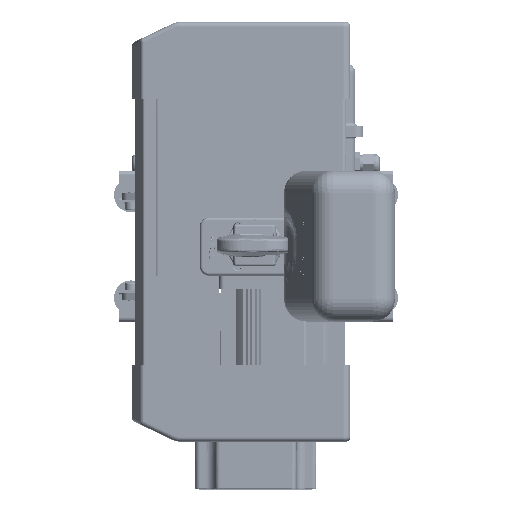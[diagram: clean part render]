
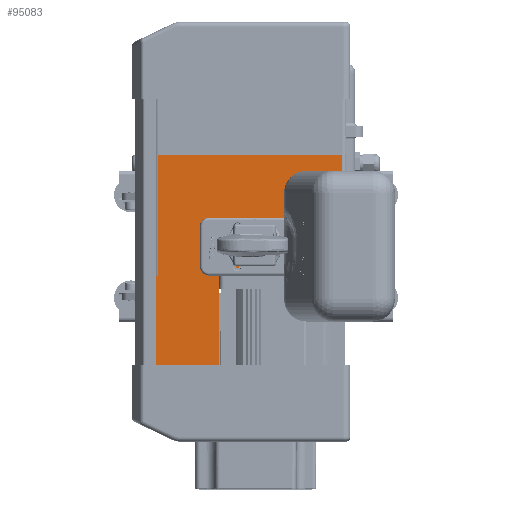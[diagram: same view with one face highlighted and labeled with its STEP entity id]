
A CAD part, front view. The second image highlights one B-rep face of the part: STEP entity #95083.
In plain terms, the highlighted planar face has unit normal (0, -1, 0).
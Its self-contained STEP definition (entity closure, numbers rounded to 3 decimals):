
#2388=LINE('',#136359,#9789);
#2439=LINE('',#136504,#9840);
#2440=LINE('',#136507,#9841);
#2441=LINE('',#136508,#9842);
#2442=LINE('',#136510,#9843);
#2443=LINE('',#136521,#9844);
#2444=LINE('',#136523,#9845);
#9789=VECTOR('',#110934,1000.);
#9840=VECTOR('',#111031,1000.);
#9841=VECTOR('',#111032,1000.);
#9842=VECTOR('',#111033,1000.);
#9843=VECTOR('',#111034,1000.);
#9844=VECTOR('',#111035,1000.);
#9845=VECTOR('',#111036,1000.);
#17514=PLANE('',#101923);
#23733=ORIENTED_EDGE('',*,*,#52701,.T.);
#23734=ORIENTED_EDGE('',*,*,#52702,.F.);
#23735=ORIENTED_EDGE('',*,*,#52632,.T.);
#23736=ORIENTED_EDGE('',*,*,#52703,.T.);
#23737=ORIENTED_EDGE('',*,*,#52704,.T.);
#23738=ORIENTED_EDGE('',*,*,#52700,.T.);
#23739=ORIENTED_EDGE('',*,*,#52705,.T.);
#23740=ORIENTED_EDGE('',*,*,#52706,.T.);
#23741=ORIENTED_EDGE('',*,*,#52707,.T.);
#23742=ORIENTED_EDGE('',*,*,#52708,.F.);
#52632=EDGE_CURVE('',#67133,#67132,#2388,.T.);
#52700=EDGE_CURVE('',#67189,#67190,#76337,.F.);
#52701=EDGE_CURVE('',#67191,#67192,#2439,.T.);
#52702=EDGE_CURVE('',#67133,#67192,#2440,.T.);
#52703=EDGE_CURVE('',#67132,#67193,#2441,.T.);
#52704=EDGE_CURVE('',#67193,#67189,#2442,.T.);
#52705=EDGE_CURVE('',#67190,#67194,#76338,.T.);
#52706=EDGE_CURVE('',#67194,#67195,#76339,.T.);
#52707=EDGE_CURVE('',#67195,#67196,#2443,.T.);
#52708=EDGE_CURVE('',#67191,#67196,#2444,.F.);
#67132=VERTEX_POINT('',#136358);
#67133=VERTEX_POINT('',#136360);
#67189=VERTEX_POINT('',#136492);
#67190=VERTEX_POINT('',#136498);
#67191=VERTEX_POINT('',#136505);
#67192=VERTEX_POINT('',#136506);
#67193=VERTEX_POINT('',#136509);
#67194=VERTEX_POINT('',#136515);
#67195=VERTEX_POINT('',#136520);
#67196=VERTEX_POINT('',#136522);
#76337=B_SPLINE_CURVE_WITH_KNOTS('',3,(#136499,#136500,#136501,#136502),
 .UNSPECIFIED.,.F.,.F.,(4,4),(0.644,0.668),
 .UNSPECIFIED.);
#76338=B_SPLINE_CURVE_WITH_KNOTS('',3,(#136511,#136512,#136513,#136514),
 .UNSPECIFIED.,.F.,.F.,(4,4),(0.356,1.),.UNSPECIFIED.);
#76339=B_SPLINE_CURVE_WITH_KNOTS('',3,(#136516,#136517,#136518,#136519),
 .UNSPECIFIED.,.F.,.F.,(4,4),(0.,0.986),.UNSPECIFIED.);
#79327=EDGE_LOOP('',(#23733,#23734,#23735,#23736,#23737,#23738,#23739,#23740,
#23741,#23742));
#86397=FACE_BOUND('',#79327,.T.);
#95083=ADVANCED_FACE('',(#86397),#17514,.T.);
#101923=AXIS2_PLACEMENT_3D('',#136503,#111029,#111030);
#110934=DIRECTION('',(0.,0.,-1.));
#111029=DIRECTION('',(0.,-1.,0.));
#111030=DIRECTION('',(1.,0.,0.));
#111031=DIRECTION('',(0.,0.,-1.));
#111032=DIRECTION('',(1.,0.,0.));
#111033=DIRECTION('',(1.,0.,0.));
#111034=DIRECTION('',(0.,0.,1.));
#111035=DIRECTION('',(0.,0.,1.));
#111036=DIRECTION('',(-1.,0.,0.));
#136358=CARTESIAN_POINT('',(-139.392,-738.742,147.427));
#136359=CARTESIAN_POINT('',(-139.392,-738.742,359.427));
#136360=CARTESIAN_POINT('',(-139.392,-738.742,245.927));
#136492=CARTESIAN_POINT('',(-70.,-738.742,245.927));
#136498=CARTESIAN_POINT('',(-65.001,-738.742,245.927));
#136499=CARTESIAN_POINT('',(-65.001,-738.742,245.927));
#136500=CARTESIAN_POINT('',(-66.667,-738.742,245.927));
#136501=CARTESIAN_POINT('',(-68.334,-738.742,245.927));
#136502=CARTESIAN_POINT('',(-70.,-738.742,245.927));
#136503=CARTESIAN_POINT('',(63.,-738.742,227.427));
#136504=CARTESIAN_POINT('',(-137.,-738.742,801.877));
#136505=CARTESIAN_POINT('',(-137.,-738.742,378.927));
#136506=CARTESIAN_POINT('',(-137.,-738.742,245.927));
#136507=CARTESIAN_POINT('',(63.,-738.742,245.927));
#136508=CARTESIAN_POINT('',(63.,-738.742,147.427));
#136509=CARTESIAN_POINT('',(-70.,-738.742,147.427));
#136510=CARTESIAN_POINT('',(-70.,-738.742,227.427));
#136511=CARTESIAN_POINT('',(-65.001,-738.742,245.927));
#136512=CARTESIAN_POINT('',(-21.667,-738.742,245.927));
#136513=CARTESIAN_POINT('',(21.666,-738.742,245.927));
#136514=CARTESIAN_POINT('',(65.,-738.742,245.927));
#136515=CARTESIAN_POINT('',(65.,-738.742,245.927));
#136516=CARTESIAN_POINT('',(65.,-738.742,245.927));
#136517=CARTESIAN_POINT('',(65.,-738.742,280.927));
#136518=CARTESIAN_POINT('',(65.,-738.742,315.927));
#136519=CARTESIAN_POINT('',(65.,-738.742,350.927));
#136520=CARTESIAN_POINT('',(65.,-738.742,350.927));
#136521=CARTESIAN_POINT('',(65.,-738.742,227.427));
#136522=CARTESIAN_POINT('',(65.,-738.742,378.927));
#136523=CARTESIAN_POINT('',(-137.,-738.742,378.927));
